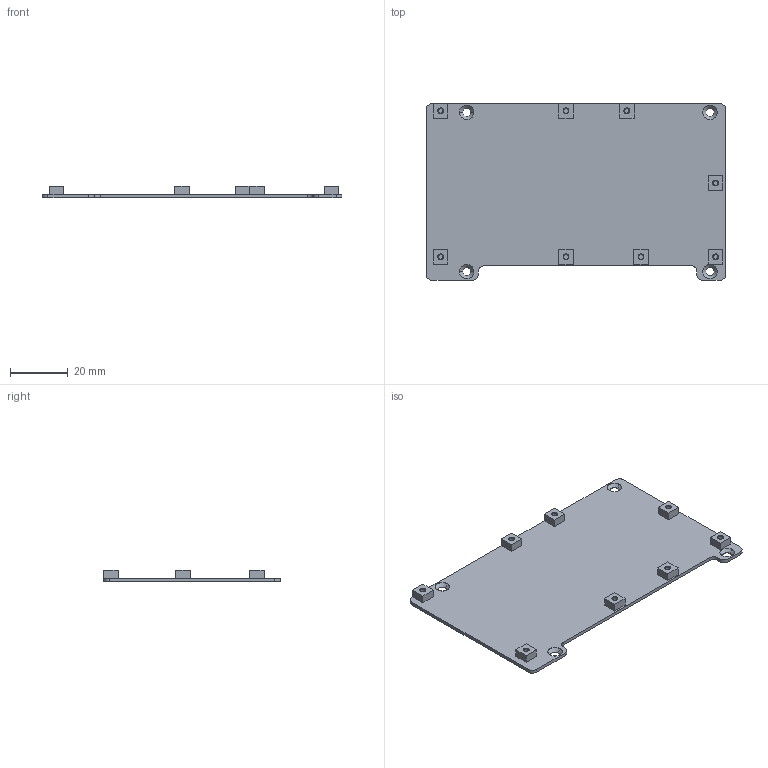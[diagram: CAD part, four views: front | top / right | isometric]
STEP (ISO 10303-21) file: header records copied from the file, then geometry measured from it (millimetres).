
FILE_DESCRIPTION (( 'STEP AP214' ), '1' );
FILE_NAME ('控制固定板.STEP', '2026-09-29T01:35:26', ( '微软用户' ), ( '微软中国' ), 'SwSTEP 2.0', 'SolidWorks 2016', '' );
FILE_SCHEMA (( 'AUTOMOTIVE_DESIGN' ));
Length unit declared in the file: millimetre
Products named in the file (1): 諷秶嘐隅啣
Bounding box: 103.5 x 61 x 4 mm (x, y, z)
Volume: 7567.9 mm3; surface area: 12804.4 mm2
Topology: 1 solids, 1 shells, 119 faces, 280 edges, 176 vertices
Faces by surface type: plane 55, cylinder 40, cone 24
Entity records: 3620 total; most frequent: DIRECTION 616, CARTESIAN_POINT 576, ORIENTED_EDGE 560, EDGE_CURVE 280, AXIS2_PLACEMENT_3D 216, LINE 184, VECTOR 184, VERTEX_POINT 176
